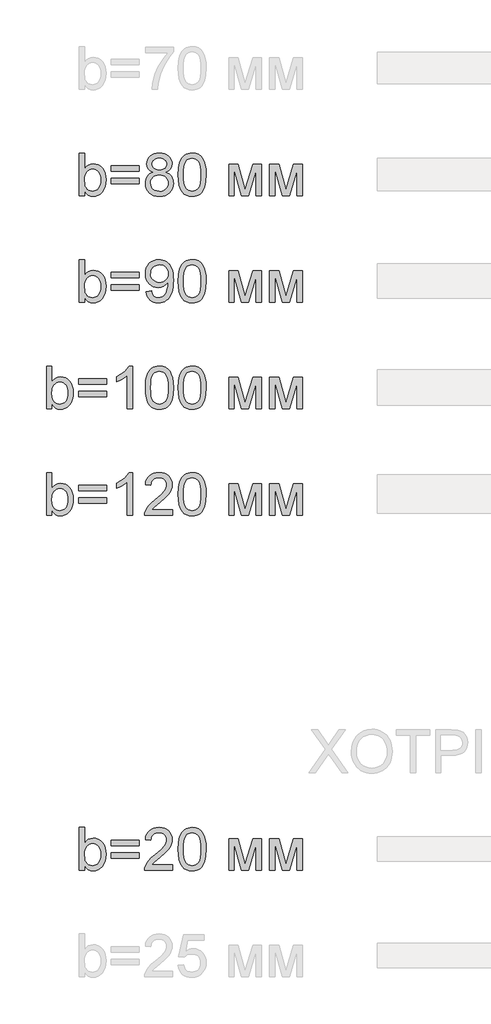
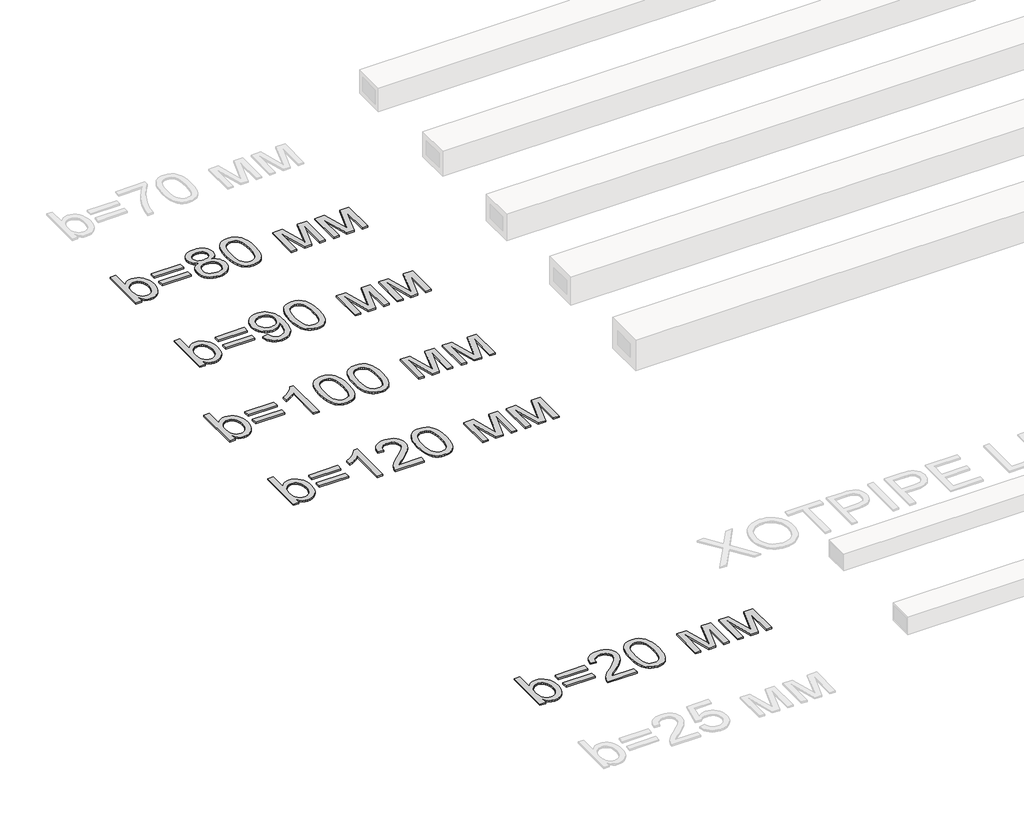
# One storey, part 82 of 86: 5 proxies.
"""IFC4 building model written with IfcOpenShell, lengths in millimetres."""

from ifc_helpers import new_model, si_unit, origin, origin_with_axes, place, context, project, spatial, polyline, outline, extrude, element, save

model = new_model("IFC4")

# Units and contexts
model_context = context("Model", 3, world=origin())
ifc_project = project(units=[si_unit("LENGTHUNIT", "METRE", prefix="MILLI")], contexts=[model_context])

# Site, building, storey
site = spatial("IfcSite", under=ifc_project)
building = spatial("IfcBuilding", under=site)
storey = spatial("IfcBuildingStorey", under=building, Name="Уровень 1", Elevation=0.0)

# Proxies
placement = place(None, origin())
element("IfcBuildingElementProxy", 1, Name="Текст модели 1", ObjectType="Текст модели 1", at=placement, inside=storey, context=model_context, shape_type="SweptSolid", body=[
    extrude(outline(polyline([(109771.0068445, 78669.2937088), (109695.6646119, 78669.2937088), (109695.6646119, 79272.0315697), (109771.0068445, 79272.0315697), (109771.0068445, 79048.5064694), (109795.7836969, 79080.3742473), (109823.7611226, 79103.1369457), (109854.9391217, 79116.7945648), (109889.3176942, 79121.3471045), (109928.1292447, 79117.2452202), (109964.8070796, 79104.9395675), (109997.2542716, 79085.2026984), (110023.3738932, 79058.8071653), (110043.8465263, 79026.0104854), (110059.3527524, 78987.0701762), (110069.1200193, 78943.6049185), (110072.375775, 78897.233393), (110069.0050562, 78843.7249568), (110058.8928999, 78796.6544555), (110042.039306, 78756.0218892), (110018.4442745, 78721.8272577), (109990.1219594, 78694.7235517), (109959.0865146, 78675.3637617), (109925.33794, 78663.7478877), (109888.8762358, 78659.8759297), (109853.3664262, 78664.8699278), (109821.8849245, 78679.8519221), (109794.4317306, 78704.8219125), (109771.0068445, 78739.7798991), (109771.0068445, 78669.2937088)]), holes=[polyline([(109771.0068445, 78893.7017259), (109776.1571925, 78830.8674811), (109782.5951274, 78807.065516), (109791.6082363, 78788.3403224), (109809.8643803, 78765.0993774), (109831.0819744, 78748.4987024), (109855.2610185, 78738.5382973), (109882.4015127, 78735.2181623), (109904.9342849, 78737.6645776), (109925.8851645, 78745.0038234), (109945.2541516, 78757.2358997), (109963.041246, 78774.3608066), (109977.9128757, 78796.3325588), (109988.5354683, 78823.105171), (109994.9090239, 78854.6786432), (109997.0335424, 78891.0529755), (109994.9963958, 78928.1170865), (109988.8849562, 78959.9940614), (109978.6992234, 78986.6839001), (109964.4391976, 79008.1866028), (109947.2912981, 79024.7320955), (109928.4419444, 79036.5503046), (109907.8911364, 79043.64123), (109885.6388742, 79046.0048719), (109863.106102, 79043.5584566), (109842.1552224, 79036.2192108), (109822.7862354, 79023.9871344), (109804.9991409, 79006.8622276), (109790.1275112, 78985.1112046), (109779.5049186, 78959.00078), (109773.1313631, 78928.5309538), (109771.0068445, 78893.7017259)])]), origin_with_axes(), (0.0, 0.0, 1.0), 20.0),
    extrude(outline(polyline([(110543.2647288, 79017.7515346), (110147.7180076, 79017.7515346), (110147.7180076, 79093.0937672), (110543.2647288, 79093.0937672), (110543.2647288, 79017.7515346)])), origin_with_axes(), (0.0, 0.0, 1.0), 20.0),
    extrude(outline(polyline([(110543.2647288, 78838.8137322), (110147.7180076, 78838.8137322), (110147.7180076, 78914.1559648), (110543.2647288, 78914.1559648), (110543.2647288, 78838.8137322)])), origin_with_axes(), (0.0, 0.0, 1.0), 20.0),
    extrude(outline(polyline([(110737.8007279, 79001.2704212), (110697.4624671, 79021.136049), (110681.8044897, 79033.7176132), (110669.1539476, 79048.065011), (110652.4337109, 79081.5054844), (110646.8602987, 79120.9056461), (110649.8953251, 79151.6329897), (110659.0004045, 79179.8035535), (110674.1755368, 79205.4173374), (110695.420722, 79228.4743415), (110721.7150876, 79247.5306288), (110752.0377611, 79261.1422626), (110786.3887424, 79269.3092429), (110824.7680315, 79272.0315697), (110863.3312617, 79269.2448636), (110897.9397604, 79260.8847452), (110928.5935276, 79246.9512147), (110955.2925634, 79227.4442719), (110976.9240247, 79203.9366124), (110992.3750685, 79178.0009317), (111001.6456948, 79149.6372299), (111004.7359036, 79118.8455069), (110999.2360677, 79080.7145381), (110982.7365603, 79047.8442818), (110970.3159444, 79033.593453), (110955.0534401, 79021.0808667), (110916.0027663, 79001.2704212), (110940.7658231, 78990.7352006), (110962.3742918, 78977.3764857), (110980.8281724, 78961.1942764), (110996.1274649, 78942.1885728), (111008.1342135, 78920.7824392), (111016.7104625, 78897.3989399), (111021.8562119, 78872.0380749), (111023.5714617, 78844.6998441), (111020.1685533, 78807.1206983), (111009.9598279, 78772.6685494), (110992.9452856, 78741.3433976), (110969.1249264, 78713.1452426), (110939.7495491, 78689.8399182), (110906.0699525, 78673.1932579), (110868.0861365, 78663.2052618), (110825.7981011, 78659.8759297), (110783.5100658, 78663.2190574), (110745.5262498, 78673.2484402), (110711.8466531, 78689.9640784), (110682.4712758, 78713.3659718), (110658.6509166, 78741.7618633), (110641.6363743, 78773.4594957), (110631.427649, 78808.458869), (110628.0247405, 78846.7599833), (110629.8089682, 78875.3444143), (110635.1616512, 78901.5008242), (110644.0827896, 78925.2292128), (110656.5723833, 78946.5295804), (110672.3545209, 78965.0156506), (110691.1532909, 78980.3011475), (110712.9686932, 78992.3860711), (110737.8007279, 79001.2704212)]), holes=[polyline([(110722.2025313, 79118.6983541), (110723.8717958, 79101.4262944), (110728.8795895, 79085.8097037), (110737.2259122, 79071.848582), (110748.9107641, 79059.5429293), (110763.7869923, 79049.4997508), (110781.707444, 79042.3260519), (110802.6721192, 79038.0218326), (110826.6810179, 79036.5870928), (110850.0967069, 79038.0126355), (110870.6061281, 79042.2892637), (110888.2092816, 79049.4169774), (110902.9061673, 79059.3957765), (110914.4944501, 79071.4439118), (110922.771795, 79084.7796342), (110927.738202, 79099.4029435), (110929.393671, 79115.3138398), (110927.6830197, 79131.8455369), (110922.5510658, 79147.0068736), (110913.9978095, 79160.7978499), (110902.0232505, 79173.2184658), (110886.995271, 79183.486972), (110869.2817529, 79190.8216193), (110848.8826963, 79195.2224076), (110825.7981011, 79196.6893371), (110802.5341634, 79195.2545973), (110782.0385378, 79190.950378), (110764.3112241, 79183.7766791), (110749.3522225, 79173.7335006), (110737.4742326, 79161.6853652), (110728.9899541, 79148.4967957), (110723.899387, 79134.167792), (110722.2025313, 79118.6983541)]), polyline([(110703.3669731, 78849.4087336), (110706.5123642, 78820.5851793), (110715.9485374, 78792.68133), (110733.3677498, 78768.345936), (110760.4622588, 78750.2277477), (110792.9094507, 78738.9705587), (110826.3867123, 78735.2181623), (110853.628374, 78737.1909295), (110877.6694624, 78743.1092311), (110898.5099775, 78752.9730671), (110916.1499191, 78766.7824375), (110930.1846172, 78783.6360314), (110940.2094016, 78802.632538), (110946.2242722, 78823.7719571), (110948.2292291, 78847.0542889), (110946.1598929, 78870.7091012), (110939.9518842, 78892.2301979), (110929.6052031, 78911.617579), (110915.1198495, 78928.8712446), (110897.0016613, 78943.0347014), (110875.7564761, 78953.1514563), (110851.3842939, 78959.2215092), (110823.8851147, 78961.2448602), (110797.0435247, 78959.2491003), (110773.3197345, 78953.2618209), (110752.7137442, 78943.2830218), (110735.2255539, 78929.312703), (110721.2874248, 78912.344146), (110711.3316183, 78893.3706321), (110705.3581344, 78872.3921613), (110703.3669731, 78849.4087336)])]), origin_with_axes(), (0.0, 0.0, 1.0), 20.0),
    extrude(outline(polyline([(111089.4959153, 78965.8065969), (111095.0325393, 79062.2836501), (111101.9533193, 79103.1967265), (111111.6424114, 79139.2261694), (111124.0584287, 79170.6662845), (111139.1599846, 79197.8113772), (111156.9470791, 79220.6614476), (111177.4197121, 79239.2164957), (111200.6468616, 79253.5730906), (111226.6975054, 79263.8278012), (111255.5716435, 79269.9806276), (111287.2692759, 79272.0315697), (111333.6959837, 79267.1755274), (111375.2666491, 79252.6074004), (111410.0314977, 79228.8974058), (111436.0407547, 79196.6157607), (111455.6856533, 79156.0383766), (111471.3574262, 79107.4411651), (111481.6213339, 79045.7289604), (111485.0426365, 78965.8065969), (111479.5611947, 78869.8813667), (111472.7093926, 78829.106246), (111463.1168696, 78793.1227884), (111450.7974212, 78761.6688778), (111435.7648432, 78734.4823983), (111418.0191355, 78711.56335), (111397.560298, 78692.9117329), (111374.3055574, 78678.458569), (111348.1721402, 78668.1348805), (111319.1600463, 78661.9406674), (111287.2692759, 78659.8759297), (111245.7721868, 78663.4627792), (111208.9839873, 78674.2233275), (111176.9046773, 78692.1575748), (111149.5342569, 78717.265521), (111123.2674824, 78762.6529621), (111104.5055007, 78819.2056218), (111093.2483116, 78886.9235001), (111089.4959153, 78965.8065969)]), holes=[polyline([(111164.8381479, 78965.9537497), (111167.0454398, 78900.456959), (111173.6673158, 78847.440565), (111184.7037756, 78806.9045676), (111200.1548194, 78778.848967), (111218.8432248, 78759.7604899), (111239.5917693, 78746.1258635), (111262.400453, 78737.9450876), (111287.2692759, 78735.2181623), (111312.1380987, 78737.9542847), (111334.9467824, 78746.1626517), (111355.695327, 78759.8432634), (111374.3837323, 78778.9961198), (111389.8347761, 78807.0977057), (111400.871236, 78847.624506), (111407.4931119, 78900.5765206), (111409.7004039, 78965.9537497), (111407.5666883, 79029.7168965), (111401.1655416, 79081.79979), (111390.4969637, 79122.2024301), (111375.5609547, 79150.9248169), (111357.185249, 79170.9467945), (111336.1975812, 79185.248207), (111312.5979512, 79193.8290546), (111286.3863591, 79196.6893371), (111261.6462949, 79194.1693454), (111239.2238873, 79186.6093704), (111219.1191363, 79174.0094121), (111201.3320418, 79156.3694704), (111185.3659632, 79125.0995008), (111173.9616213, 79082.9402242), (111167.1190162, 79029.8916405), (111164.8381479, 78965.9537497)])]), origin_with_axes(), (0.0, 0.0, 1.0), 20.0),
    extrude(outline(polyline([(111805.2471251, 79111.9293254), (111934.8887402, 79111.9293254), (112034.8054901, 78757.5853876), (112142.5213382, 79111.9293254), (112266.7182998, 79111.9293254), (112266.7182998, 78669.2937088), (112191.3760672, 78669.2937088), (112191.3760672, 79025.6977857), (112083.0716078, 78669.2937088), (111984.1849275, 78669.2937088), (111880.5893577, 79042.7675103), (111880.5893577, 78669.2937088), (111805.2471251, 78669.2937088), (111805.2471251, 79111.9293254)])), origin_with_axes(), (0.0, 0.0, 1.0), 20.0),
    extrude(outline(polyline([(112379.7316487, 79111.9293254), (112509.3732638, 79111.9293254), (112609.2900137, 78757.5853876), (112717.0058619, 79111.9293254), (112841.2028235, 79111.9293254), (112841.2028235, 78669.2937088), (112765.8605909, 78669.2937088), (112765.8605909, 79025.6977857), (112657.5561315, 78669.2937088), (112558.6694512, 78669.2937088), (112455.0738813, 79042.7675103), (112455.0738813, 78669.2937088), (112379.7316487, 78669.2937088), (112379.7316487, 79111.9293254)])), origin_with_axes(), (0.0, 0.0, 1.0), 20.0),
])
element("IfcBuildingElementProxy", 2, Name="Текст модели 1", ObjectType="Текст модели 1", at=placement, inside=storey, context=model_context, shape_type="SweptSolid", body=[
    extrude(outline(polyline([(109771.0068445, 77169.2937088), (109695.6646119, 77169.2937088), (109695.6646119, 77772.0315697), (109771.0068445, 77772.0315697), (109771.0068445, 77548.5064694), (109795.7836969, 77580.3742473), (109823.7611226, 77603.1369457), (109854.9391217, 77616.7945648), (109889.3176942, 77621.3471045), (109928.1292447, 77617.2452202), (109964.8070796, 77604.9395675), (109997.2542716, 77585.2026984), (110023.3738932, 77558.8071653), (110043.8465263, 77526.0104854), (110059.3527524, 77487.0701762), (110069.1200193, 77443.6049185), (110072.375775, 77397.233393), (110069.0050562, 77343.7249568), (110058.8928999, 77296.6544555), (110042.039306, 77256.0218892), (110018.4442745, 77221.8272577), (109990.1219594, 77194.7235517), (109959.0865146, 77175.3637617), (109925.33794, 77163.7478877), (109888.8762358, 77159.8759297), (109853.3664262, 77164.8699278), (109821.8849245, 77179.8519221), (109794.4317306, 77204.8219125), (109771.0068445, 77239.7798991), (109771.0068445, 77169.2937088)]), holes=[polyline([(109771.0068445, 77393.7017259), (109776.1571925, 77330.8674811), (109782.5951274, 77307.065516), (109791.6082363, 77288.3403224), (109809.8643803, 77265.0993774), (109831.0819744, 77248.4987024), (109855.2610185, 77238.5382973), (109882.4015127, 77235.2181623), (109904.9342849, 77237.6645776), (109925.8851645, 77245.0038234), (109945.2541516, 77257.2358997), (109963.041246, 77274.3608066), (109977.9128757, 77296.3325588), (109988.5354683, 77323.105171), (109994.9090239, 77354.6786432), (109997.0335424, 77391.0529755), (109994.9963958, 77428.1170865), (109988.8849562, 77459.9940614), (109978.6992234, 77486.6839001), (109964.4391976, 77508.1866028), (109947.2912981, 77524.7320955), (109928.4419444, 77536.5503046), (109907.8911364, 77543.64123), (109885.6388742, 77546.0048719), (109863.106102, 77543.5584566), (109842.1552224, 77536.2192108), (109822.7862354, 77523.9871344), (109804.9991409, 77506.8622276), (109790.1275112, 77485.1112046), (109779.5049186, 77459.00078), (109773.1313631, 77428.5309538), (109771.0068445, 77393.7017259)])]), origin_with_axes(), (0.0, 0.0, 1.0), 20.0),
    extrude(outline(polyline([(110543.2647288, 77517.7515346), (110147.7180076, 77517.7515346), (110147.7180076, 77593.0937672), (110543.2647288, 77593.0937672), (110543.2647288, 77517.7515346)])), origin_with_axes(), (0.0, 0.0, 1.0), 20.0),
    extrude(outline(polyline([(110543.2647288, 77338.8137322), (110147.7180076, 77338.8137322), (110147.7180076, 77414.1559648), (110543.2647288, 77414.1559648), (110543.2647288, 77338.8137322)])), origin_with_axes(), (0.0, 0.0, 1.0), 20.0),
    extrude(outline(polyline([(110637.4425196, 77319.978174), (110712.7847522, 77329.3959531), (110725.660622, 77286.6296712), (110735.1335834, 77270.3646884), (110746.6298957, 77257.5118112), (110760.0208004, 77247.7583398), (110775.1775386, 77240.7915746), (110810.7885157, 77235.2181623), (110842.739067, 77238.8050118), (110871.7833505, 77249.5655601), (110895.9164094, 77266.322585), (110913.1332868, 77287.898864), (110926.1747035, 77316.2625659), (110937.7813804, 77353.3818592), (110945.9483607, 77395.9825942), (110948.6706875, 77440.7906212), (110948.2292291, 77455.505901), (110922.1280015, 77423.6473203), (110887.9701583, 77398.4106154), (110848.2205087, 77381.9662902), (110805.3438622, 77376.4848485), (110769.5535426, 77379.8325746), (110736.6418996, 77389.8757531), (110706.6089332, 77406.6143839), (110679.4546434, 77430.048467), (110656.9540609, 77458.9547948), (110640.8822162, 77492.1101596), (110631.2391094, 77529.5145614), (110628.0247405, 77571.1680003), (110631.3954593, 77614.2101938), (110641.5076156, 77652.8378033), (110658.3612095, 77687.0508288), (110681.956241, 77716.8492704), (110710.628044, 77740.9915264), (110742.7119525, 77758.2359949), (110778.2079665, 77768.582676), (110817.116086, 77772.0315697), (110845.8430713, 77770.063401), (110873.3100608, 77764.158895), (110899.5170544, 77754.3180516), (110924.4640522, 77740.5408709), (110947.3187212, 77723.1216584), (110967.2487283, 77702.3547198), (110984.2540735, 77678.240055), (110998.3347568, 77650.7776641), (111009.3758152, 77618.3856544), (111017.2622855, 77579.4821334), (111021.9941677, 77534.0671011), (111023.5714617, 77482.1405575), (111021.9987662, 77427.6066502), (111017.2806796, 77378.9312638), (111009.417202, 77336.114398), (110998.4083332, 77299.1560531), (110984.2954602, 77267.154918), (110967.1199696, 77239.209682), (110946.8818613, 77215.3203449), (110923.5811354, 77195.4869069), (110897.6868415, 77179.9071044), (110869.668029, 77168.778674), (110839.5246981, 77162.1016158), (110807.2568486, 77159.8759297), (110773.420902, 77162.5016875), (110742.8407112, 77170.3789607), (110715.516276, 77183.5077494), (110691.4475965, 77201.8880536), (110671.2416779, 77225.0232325), (110655.5055255, 77252.4166456), (110644.2391394, 77284.0682928), (110637.4425196, 77319.978174)]), holes=[polyline([(110948.2292291, 77572.9338339), (110946.1966811, 77599.9363724), (110940.099037, 77623.9958548), (110929.9362969, 77645.1122814), (110915.7084607, 77663.2856519), (110898.1145043, 77677.8997642), (110877.8534034, 77688.3384158), (110854.9251581, 77694.6016068), (110829.3297683, 77696.6893371), (110802.915841, 77694.4406584), (110779.0035113, 77687.6946223), (110757.5927792, 77676.4512288), (110738.6836447, 77660.710478), (110723.2326009, 77641.3920747), (110712.196141, 77619.415724), (110705.5742651, 77594.7814259), (110703.3669731, 77567.4891804), (110705.4547034, 77543.0112321), (110711.7178944, 77520.9337139), (110722.156546, 77501.2566257), (110736.7706583, 77483.9799675), (110754.9532259, 77469.9130797), (110776.0972436, 77459.8653027), (110800.2027113, 77453.8366365), (110827.2696291, 77451.8270811), (110852.5109325, 77453.8366365), (110875.4069882, 77459.8653027), (110895.9577961, 77469.9130797), (110914.1633564, 77483.9799675), (110929.0671757, 77501.5969165), (110939.7127609, 77522.2948773), (110946.1001121, 77546.0738497), (110948.2292291, 77572.9338339)])]), origin_with_axes(), (0.0, 0.0, 1.0), 20.0),
    extrude(outline(polyline([(111089.4959153, 77465.8065969), (111095.0325393, 77562.2836501), (111101.9533193, 77603.1967265), (111111.6424114, 77639.2261694), (111124.0584287, 77670.6662845), (111139.1599846, 77697.8113772), (111156.9470791, 77720.6614476), (111177.4197121, 77739.2164957), (111200.6468616, 77753.5730906), (111226.6975054, 77763.8278012), (111255.5716435, 77769.9806276), (111287.2692759, 77772.0315697), (111333.6959837, 77767.1755274), (111375.2666491, 77752.6074004), (111410.0314977, 77728.8974058), (111436.0407547, 77696.6157607), (111455.6856533, 77656.0383766), (111471.3574262, 77607.4411651), (111481.6213339, 77545.7289604), (111485.0426365, 77465.8065969), (111479.5611947, 77369.8813667), (111472.7093926, 77329.106246), (111463.1168696, 77293.1227884), (111450.7974212, 77261.6688778), (111435.7648432, 77234.4823983), (111418.0191355, 77211.56335), (111397.560298, 77192.9117329), (111374.3055574, 77178.458569), (111348.1721402, 77168.1348805), (111319.1600463, 77161.9406674), (111287.2692759, 77159.8759297), (111245.7721868, 77163.4627792), (111208.9839873, 77174.2233275), (111176.9046773, 77192.1575748), (111149.5342569, 77217.265521), (111123.2674824, 77262.6529621), (111104.5055007, 77319.2056218), (111093.2483116, 77386.9235001), (111089.4959153, 77465.8065969)]), holes=[polyline([(111164.8381479, 77465.9537497), (111167.0454398, 77400.456959), (111173.6673158, 77347.440565), (111184.7037756, 77306.9045676), (111200.1548194, 77278.848967), (111218.8432248, 77259.7604899), (111239.5917693, 77246.1258635), (111262.400453, 77237.9450876), (111287.2692759, 77235.2181623), (111312.1380987, 77237.9542847), (111334.9467824, 77246.1626517), (111355.695327, 77259.8432634), (111374.3837323, 77278.9961198), (111389.8347761, 77307.0977057), (111400.871236, 77347.624506), (111407.4931119, 77400.5765206), (111409.7004039, 77465.9537497), (111407.5666883, 77529.7168965), (111401.1655416, 77581.79979), (111390.4969637, 77622.2024301), (111375.5609547, 77650.9248169), (111357.185249, 77670.9467945), (111336.1975812, 77685.248207), (111312.5979512, 77693.8290546), (111286.3863591, 77696.6893371), (111261.6462949, 77694.1693454), (111239.2238873, 77686.6093704), (111219.1191363, 77674.0094121), (111201.3320418, 77656.3694704), (111185.3659632, 77625.0995008), (111173.9616213, 77582.9402242), (111167.1190162, 77529.8916405), (111164.8381479, 77465.9537497)])]), origin_with_axes(), (0.0, 0.0, 1.0), 20.0),
    extrude(outline(polyline([(111805.2471251, 77611.9293254), (111934.8887402, 77611.9293254), (112034.8054901, 77257.5853876), (112142.5213382, 77611.9293254), (112266.7182998, 77611.9293254), (112266.7182998, 77169.2937088), (112191.3760672, 77169.2937088), (112191.3760672, 77525.6977857), (112083.0716078, 77169.2937088), (111984.1849275, 77169.2937088), (111880.5893577, 77542.7675103), (111880.5893577, 77169.2937088), (111805.2471251, 77169.2937088), (111805.2471251, 77611.9293254)])), origin_with_axes(), (0.0, 0.0, 1.0), 20.0),
    extrude(outline(polyline([(112379.7316487, 77611.9293254), (112509.3732638, 77611.9293254), (112609.2900137, 77257.5853876), (112717.0058619, 77611.9293254), (112841.2028235, 77611.9293254), (112841.2028235, 77169.2937088), (112765.8605909, 77169.2937088), (112765.8605909, 77525.6977857), (112657.5561315, 77169.2937088), (112558.6694512, 77169.2937088), (112455.0738813, 77542.7675103), (112455.0738813, 77169.2937088), (112379.7316487, 77169.2937088), (112379.7316487, 77611.9293254)])), origin_with_axes(), (0.0, 0.0, 1.0), 20.0),
])
element("IfcBuildingElementProxy", 3, Name="Текст модели 1", ObjectType="Текст модели 1", at=placement, inside=storey, context=model_context, shape_type="SweptSolid", body=[
    extrude(outline(polyline([(109309.5356698, 75669.2937088), (109234.1934372, 75669.2937088), (109234.1934372, 76272.0315697), (109309.5356698, 76272.0315697), (109309.5356698, 76048.5064694), (109334.3125222, 76080.3742473), (109362.2899479, 76103.1369457), (109393.467947, 76116.7945648), (109427.8465194, 76121.3471045), (109466.6580699, 76117.2452202), (109503.3359048, 76104.9395675), (109535.7830968, 76085.2026984), (109561.9027185, 76058.8071653), (109582.3753515, 76026.0104854), (109597.8815776, 75987.0701762), (109607.6488446, 75943.6049185), (109610.9046002, 75897.233393), (109607.5338815, 75843.7249568), (109597.4217251, 75796.6544555), (109580.5681312, 75756.0218892), (109556.9730997, 75721.8272577), (109528.6507846, 75694.7235517), (109497.6153398, 75675.3637617), (109463.8667653, 75663.7478877), (109427.405061, 75659.8759297), (109391.8952515, 75664.8699278), (109360.4137497, 75679.8519221), (109332.9605558, 75704.8219125), (109309.5356698, 75739.7798991), (109309.5356698, 75669.2937088)]), holes=[polyline([(109309.5356698, 75893.7017259), (109314.6860177, 75830.8674811), (109321.1239526, 75807.065516), (109330.1370615, 75788.3403224), (109348.3932055, 75765.0993774), (109369.6107996, 75748.4987024), (109393.7898437, 75738.5382973), (109420.9303379, 75735.2181623), (109443.4631101, 75737.6645776), (109464.4139898, 75745.0038234), (109483.7829768, 75757.2358997), (109501.5700713, 75774.3608066), (109516.4417009, 75796.3325588), (109527.0642935, 75823.105171), (109533.4378491, 75854.6786432), (109535.5623676, 75891.0529755), (109533.5252211, 75928.1170865), (109527.4137814, 75959.9940614), (109517.2280487, 75986.6839001), (109502.9680229, 76008.1866028), (109485.8201234, 76024.7320955), (109466.9707696, 76036.5503046), (109446.4199617, 76043.64123), (109424.1676995, 76046.0048719), (109401.6349273, 76043.5584566), (109380.6840477, 76036.2192108), (109361.3150606, 76023.9871344), (109343.5279661, 76006.8622276), (109328.6563365, 75985.1112046), (109318.0337439, 75959.00078), (109311.6601883, 75928.5309538), (109309.5356698, 75893.7017259)])]), origin_with_axes(), (0.0, 0.0, 1.0), 20.0),
    extrude(outline(polyline([(110081.7935541, 76017.7515346), (109686.2468329, 76017.7515346), (109686.2468329, 76093.0937672), (110081.7935541, 76093.0937672), (110081.7935541, 76017.7515346)])), origin_with_axes(), (0.0, 0.0, 1.0), 20.0),
    extrude(outline(polyline([(110081.7935541, 75838.8137322), (109686.2468329, 75838.8137322), (109686.2468329, 75914.1559648), (110081.7935541, 75914.1559648), (110081.7935541, 75838.8137322)])), origin_with_axes(), (0.0, 0.0, 1.0), 20.0),
    extrude(outline(polyline([(110449.086938, 75669.2937088), (110373.7447054, 75669.2937088), (110373.7447054, 76139.0054402), (110342.2907949, 76113.5664003), (110302.3755984, 76088.1641485), (110260.4738391, 76065.9624701), (110223.0602402, 76050.1251502), (110223.0602402, 76121.3471045), (110282.2340591, 76153.5367791), (110333.4984152, 76191.8332947), (110373.9102523, 76232.5578316), (110400.5265147, 76272.0315697), (110449.086938, 76272.0315697), (110449.086938, 75669.2937088)])), origin_with_axes(), (0.0, 0.0, 1.0), 20.0),
    extrude(outline(polyline([(110628.0247405, 75965.8065969), (110633.5613645, 76062.2836501), (110640.4821446, 76103.1967265), (110650.1712366, 76139.2261694), (110662.587254, 76170.6662845), (110677.6888099, 76197.8113772), (110695.4759043, 76220.6614476), (110715.9485374, 76239.2164957), (110739.1756868, 76253.5730906), (110765.2263306, 76263.8278012), (110794.1004687, 76269.9806276), (110825.7981011, 76272.0315697), (110872.2248089, 76267.1755274), (110913.7954744, 76252.6074004), (110948.5603229, 76228.8974058), (110974.56958, 76196.6157607), (110994.2144785, 76156.0383766), (111009.8862515, 76107.4411651), (111020.1501592, 76045.7289604), (111023.5714617, 75965.8065969), (111018.09002, 75869.8813667), (111011.2382178, 75829.106246), (111001.6456948, 75793.1227884), (110989.3262465, 75761.6688778), (110974.2936685, 75734.4823983), (110956.5479607, 75711.56335), (110936.0891233, 75692.9117329), (110912.8343826, 75678.458569), (110886.7009654, 75668.1348805), (110857.6888716, 75661.9406674), (110825.7981011, 75659.8759297), (110784.3010121, 75663.4627792), (110747.5128125, 75674.2233275), (110715.4335026, 75692.1575748), (110688.0630821, 75717.265521), (110661.7963077, 75762.6529621), (110643.0343259, 75819.2056218), (110631.7771369, 75886.9235001), (110628.0247405, 75965.8065969)]), holes=[polyline([(110703.3669731, 75965.9537497), (110705.5742651, 75900.456959), (110712.196141, 75847.440565), (110723.2326009, 75806.9045676), (110738.6836447, 75778.848967), (110757.37205, 75759.7604899), (110778.1205945, 75746.1258635), (110800.9292782, 75737.9450876), (110825.7981011, 75735.2181623), (110850.666924, 75737.9542847), (110873.4756077, 75746.1626517), (110894.2241522, 75759.8432634), (110912.9125576, 75778.9961198), (110928.3636014, 75807.0977057), (110939.4000612, 75847.624506), (110946.0219371, 75900.5765206), (110948.2292291, 75965.9537497), (110946.0955135, 76029.7168965), (110939.6943668, 76081.79979), (110929.025789, 76122.2024301), (110914.08978, 76150.9248169), (110895.7140743, 76170.9467945), (110874.7264065, 76185.248207), (110851.1267765, 76193.8290546), (110824.9151843, 76196.6893371), (110800.1751201, 76194.1693454), (110777.7527125, 76186.6093704), (110757.6479615, 76174.0094121), (110739.860867, 76156.3694704), (110723.8947884, 76125.0995008), (110712.4904466, 76082.9402242), (110705.6478415, 76029.8916405), (110703.3669731, 75965.9537497)])]), origin_with_axes(), (0.0, 0.0, 1.0), 20.0),
    extrude(outline(polyline([(111089.4959153, 75965.8065969), (111095.0325393, 76062.2836501), (111101.9533193, 76103.1967265), (111111.6424114, 76139.2261694), (111124.0584287, 76170.6662845), (111139.1599846, 76197.8113772), (111156.9470791, 76220.6614476), (111177.4197121, 76239.2164957), (111200.6468616, 76253.5730906), (111226.6975054, 76263.8278012), (111255.5716435, 76269.9806276), (111287.2692759, 76272.0315697), (111333.6959837, 76267.1755274), (111375.2666491, 76252.6074004), (111410.0314977, 76228.8974058), (111436.0407547, 76196.6157607), (111455.6856533, 76156.0383766), (111471.3574262, 76107.4411651), (111481.6213339, 76045.7289604), (111485.0426365, 75965.8065969), (111479.5611947, 75869.8813667), (111472.7093926, 75829.106246), (111463.1168696, 75793.1227884), (111450.7974212, 75761.6688778), (111435.7648432, 75734.4823983), (111418.0191355, 75711.56335), (111397.560298, 75692.9117329), (111374.3055574, 75678.458569), (111348.1721402, 75668.1348805), (111319.1600463, 75661.9406674), (111287.2692759, 75659.8759297), (111245.7721868, 75663.4627792), (111208.9839873, 75674.2233275), (111176.9046773, 75692.1575748), (111149.5342569, 75717.265521), (111123.2674824, 75762.6529621), (111104.5055007, 75819.2056218), (111093.2483116, 75886.9235001), (111089.4959153, 75965.8065969)]), holes=[polyline([(111164.8381479, 75965.9537497), (111167.0454398, 75900.456959), (111173.6673158, 75847.440565), (111184.7037756, 75806.9045676), (111200.1548194, 75778.848967), (111218.8432248, 75759.7604899), (111239.5917693, 75746.1258635), (111262.400453, 75737.9450876), (111287.2692759, 75735.2181623), (111312.1380987, 75737.9542847), (111334.9467824, 75746.1626517), (111355.695327, 75759.8432634), (111374.3837323, 75778.9961198), (111389.8347761, 75807.0977057), (111400.871236, 75847.624506), (111407.4931119, 75900.5765206), (111409.7004039, 75965.9537497), (111407.5666883, 76029.7168965), (111401.1655416, 76081.79979), (111390.4969637, 76122.2024301), (111375.5609547, 76150.9248169), (111357.185249, 76170.9467945), (111336.1975812, 76185.248207), (111312.5979512, 76193.8290546), (111286.3863591, 76196.6893371), (111261.6462949, 76194.1693454), (111239.2238873, 76186.6093704), (111219.1191363, 76174.0094121), (111201.3320418, 76156.3694704), (111185.3659632, 76125.0995008), (111173.9616213, 76082.9402242), (111167.1190162, 76029.8916405), (111164.8381479, 75965.9537497)])]), origin_with_axes(), (0.0, 0.0, 1.0), 20.0),
    extrude(outline(polyline([(111805.2471251, 76111.9293254), (111934.8887402, 76111.9293254), (112034.8054901, 75757.5853876), (112142.5213382, 76111.9293254), (112266.7182998, 76111.9293254), (112266.7182998, 75669.2937088), (112191.3760672, 75669.2937088), (112191.3760672, 76025.6977857), (112083.0716078, 75669.2937088), (111984.1849275, 75669.2937088), (111880.5893577, 76042.7675103), (111880.5893577, 75669.2937088), (111805.2471251, 75669.2937088), (111805.2471251, 76111.9293254)])), origin_with_axes(), (0.0, 0.0, 1.0), 20.0),
    extrude(outline(polyline([(112379.7316487, 76111.9293254), (112509.3732638, 76111.9293254), (112609.2900137, 75757.5853876), (112717.0058619, 76111.9293254), (112841.2028235, 76111.9293254), (112841.2028235, 75669.2937088), (112765.8605909, 75669.2937088), (112765.8605909, 76025.6977857), (112657.5561315, 75669.2937088), (112558.6694512, 75669.2937088), (112455.0738813, 76042.7675103), (112455.0738813, 75669.2937088), (112379.7316487, 75669.2937088), (112379.7316487, 76111.9293254)])), origin_with_axes(), (0.0, 0.0, 1.0), 20.0),
])
element("IfcBuildingElementProxy", 4, Name="Текст модели 1", ObjectType="Текст модели 1", at=placement, inside=storey, context=model_context, shape_type="SweptSolid", body=[
    extrude(outline(polyline([(109309.5356698, 74169.2937088), (109234.1934372, 74169.2937088), (109234.1934372, 74772.0315697), (109309.5356698, 74772.0315697), (109309.5356698, 74548.5064694), (109334.3125222, 74580.3742473), (109362.2899479, 74603.1369457), (109393.467947, 74616.7945648), (109427.8465194, 74621.3471045), (109466.6580699, 74617.2452202), (109503.3359048, 74604.9395675), (109535.7830968, 74585.2026984), (109561.9027185, 74558.8071653), (109582.3753515, 74526.0104854), (109597.8815776, 74487.0701762), (109607.6488446, 74443.6049185), (109610.9046002, 74397.233393), (109607.5338815, 74343.7249568), (109597.4217251, 74296.6544555), (109580.5681312, 74256.0218892), (109556.9730997, 74221.8272577), (109528.6507846, 74194.7235517), (109497.6153398, 74175.3637617), (109463.8667653, 74163.7478877), (109427.405061, 74159.8759297), (109391.8952515, 74164.8699278), (109360.4137497, 74179.8519221), (109332.9605558, 74204.8219125), (109309.5356698, 74239.7798991), (109309.5356698, 74169.2937088)]), holes=[polyline([(109309.5356698, 74393.7017259), (109314.6860177, 74330.8674811), (109321.1239526, 74307.065516), (109330.1370615, 74288.3403224), (109348.3932055, 74265.0993774), (109369.6107996, 74248.4987024), (109393.7898437, 74238.5382973), (109420.9303379, 74235.2181623), (109443.4631101, 74237.6645776), (109464.4139898, 74245.0038234), (109483.7829768, 74257.2358997), (109501.5700713, 74274.3608066), (109516.4417009, 74296.3325588), (109527.0642935, 74323.105171), (109533.4378491, 74354.6786432), (109535.5623676, 74391.0529755), (109533.5252211, 74428.1170865), (109527.4137814, 74459.9940614), (109517.2280487, 74486.6839001), (109502.9680229, 74508.1866028), (109485.8201234, 74524.7320955), (109466.9707696, 74536.5503046), (109446.4199617, 74543.64123), (109424.1676995, 74546.0048719), (109401.6349273, 74543.5584566), (109380.6840477, 74536.2192108), (109361.3150606, 74523.9871344), (109343.5279661, 74506.8622276), (109328.6563365, 74485.1112046), (109318.0337439, 74459.00078), (109311.6601883, 74428.5309538), (109309.5356698, 74393.7017259)])]), origin_with_axes(), (0.0, 0.0, 1.0), 20.0),
    extrude(outline(polyline([(110081.7935541, 74517.7515346), (109686.2468329, 74517.7515346), (109686.2468329, 74593.0937672), (110081.7935541, 74593.0937672), (110081.7935541, 74517.7515346)])), origin_with_axes(), (0.0, 0.0, 1.0), 20.0),
    extrude(outline(polyline([(110081.7935541, 74338.8137322), (109686.2468329, 74338.8137322), (109686.2468329, 74414.1559648), (110081.7935541, 74414.1559648), (110081.7935541, 74338.8137322)])), origin_with_axes(), (0.0, 0.0, 1.0), 20.0),
    extrude(outline(polyline([(110449.086938, 74169.2937088), (110373.7447054, 74169.2937088), (110373.7447054, 74639.0054402), (110342.2907949, 74613.5664003), (110302.3755984, 74588.1641485), (110260.4738391, 74565.9624701), (110223.0602402, 74550.1251502), (110223.0602402, 74621.3471045), (110282.2340591, 74653.5367791), (110333.4984152, 74691.8332947), (110373.9102523, 74732.5578316), (110400.5265147, 74772.0315697), (110449.086938, 74772.0315697), (110449.086938, 74169.2937088)])), origin_with_axes(), (0.0, 0.0, 1.0), 20.0),
    extrude(outline(polyline([(111014.1536826, 74244.6359414), (111014.1536826, 74169.2937088), (110618.6069614, 74169.2937088), (110620.2624304, 74195.8180007), (110626.7003653, 74221.2386465), (110645.2784061, 74261.8344247), (110672.4648855, 74301.2161923), (110711.7914708, 74342.4373698), (110766.7898291, 74388.5513779), (110848.09175, 74460.7666136), (110896.8729026, 74514.0727147), (110911.1007387, 74535.8513288), (110921.2634789, 74557.3356373), (110927.3611229, 74578.5256402), (110929.393671, 74599.4213376), (110927.4760861, 74619.0800317), (110921.7233314, 74637.1476362), (110912.1354069, 74653.624151), (110898.7123126, 74668.5095763), (110882.1990095, 74680.8382216), (110863.3404587, 74689.6443969), (110842.1366602, 74694.928102), (110818.587614, 74696.6893371), (110793.778572, 74694.9694888), (110771.5906891, 74689.8099438), (110752.0239655, 74681.2107021), (110735.0784011, 74669.1717638), (110721.3701983, 74654.0977991), (110711.5155593, 74636.3934781), (110705.5144843, 74616.0588008), (110703.3669731, 74593.0937672), (110628.0247405, 74602.5115463), (110634.5040621, 74641.4058703), (110646.2900816, 74675.3889696), (110663.3827988, 74704.4608442), (110685.7822137, 74728.6214943), (110712.9732917, 74747.6134023), (110744.4409979, 74761.1790508), (110780.1853322, 74769.31844), (110820.2062948, 74772.0315697), (110860.5859423, 74769.0149373), (110896.5234147, 74759.9650403), (110928.018712, 74744.8818785), (110955.0718342, 74723.7654519), (110976.7998646, 74698.1792592), (110992.3198862, 74669.6867986), (111001.6318992, 74638.2880703), (111004.7359036, 74603.9830743), (111001.3881774, 74567.9490329), (110991.3449989, 74532.5403908), (110973.5211163, 74496.5247435), (110946.8312775, 74458.6696862), (110904.2857248, 74413.4753831), (110838.8947001, 74355.4419984), (110752.2217021, 74282.9692453), (110718.2294057, 74244.6359414), (111014.1536826, 74244.6359414)])), origin_with_axes(), (0.0, 0.0, 1.0), 20.0),
    extrude(outline(polyline([(111089.4959153, 74465.8065969), (111095.0325393, 74562.2836501), (111101.9533193, 74603.1967265), (111111.6424114, 74639.2261694), (111124.0584287, 74670.6662845), (111139.1599846, 74697.8113772), (111156.9470791, 74720.6614476), (111177.4197121, 74739.2164957), (111200.6468616, 74753.5730906), (111226.6975054, 74763.8278012), (111255.5716435, 74769.9806276), (111287.2692759, 74772.0315697), (111333.6959837, 74767.1755274), (111375.2666491, 74752.6074004), (111410.0314977, 74728.8974058), (111436.0407547, 74696.6157607), (111455.6856533, 74656.0383766), (111471.3574262, 74607.4411651), (111481.6213339, 74545.7289604), (111485.0426365, 74465.8065969), (111479.5611947, 74369.8813667), (111472.7093926, 74329.106246), (111463.1168696, 74293.1227884), (111450.7974212, 74261.6688778), (111435.7648432, 74234.4823983), (111418.0191355, 74211.56335), (111397.560298, 74192.9117329), (111374.3055574, 74178.458569), (111348.1721402, 74168.1348805), (111319.1600463, 74161.9406674), (111287.2692759, 74159.8759297), (111245.7721868, 74163.4627792), (111208.9839873, 74174.2233275), (111176.9046773, 74192.1575748), (111149.5342569, 74217.265521), (111123.2674824, 74262.6529621), (111104.5055007, 74319.2056218), (111093.2483116, 74386.9235001), (111089.4959153, 74465.8065969)]), holes=[polyline([(111164.8381479, 74465.9537497), (111167.0454398, 74400.456959), (111173.6673158, 74347.440565), (111184.7037756, 74306.9045676), (111200.1548194, 74278.848967), (111218.8432248, 74259.7604899), (111239.5917693, 74246.1258635), (111262.400453, 74237.9450876), (111287.2692759, 74235.2181623), (111312.1380987, 74237.9542847), (111334.9467824, 74246.1626517), (111355.695327, 74259.8432634), (111374.3837323, 74278.9961198), (111389.8347761, 74307.0977057), (111400.871236, 74347.624506), (111407.4931119, 74400.5765206), (111409.7004039, 74465.9537497), (111407.5666883, 74529.7168965), (111401.1655416, 74581.79979), (111390.4969637, 74622.2024301), (111375.5609547, 74650.9248169), (111357.185249, 74670.9467945), (111336.1975812, 74685.248207), (111312.5979512, 74693.8290546), (111286.3863591, 74696.6893371), (111261.6462949, 74694.1693454), (111239.2238873, 74686.6093704), (111219.1191363, 74674.0094121), (111201.3320418, 74656.3694704), (111185.3659632, 74625.0995008), (111173.9616213, 74582.9402242), (111167.1190162, 74529.8916405), (111164.8381479, 74465.9537497)])]), origin_with_axes(), (0.0, 0.0, 1.0), 20.0),
    extrude(outline(polyline([(111805.2471251, 74611.9293254), (111934.8887402, 74611.9293254), (112034.8054901, 74257.5853876), (112142.5213382, 74611.9293254), (112266.7182998, 74611.9293254), (112266.7182998, 74169.2937088), (112191.3760672, 74169.2937088), (112191.3760672, 74525.6977857), (112083.0716078, 74169.2937088), (111984.1849275, 74169.2937088), (111880.5893577, 74542.7675103), (111880.5893577, 74169.2937088), (111805.2471251, 74169.2937088), (111805.2471251, 74611.9293254)])), origin_with_axes(), (0.0, 0.0, 1.0), 20.0),
    extrude(outline(polyline([(112379.7316487, 74611.9293254), (112509.3732638, 74611.9293254), (112609.2900137, 74257.5853876), (112717.0058619, 74611.9293254), (112841.2028235, 74611.9293254), (112841.2028235, 74169.2937088), (112765.8605909, 74169.2937088), (112765.8605909, 74525.6977857), (112657.5561315, 74169.2937088), (112558.6694512, 74169.2937088), (112455.0738813, 74542.7675103), (112455.0738813, 74169.2937088), (112379.7316487, 74169.2937088), (112379.7316487, 74611.9293254)])), origin_with_axes(), (0.0, 0.0, 1.0), 20.0),
])
element("IfcBuildingElementProxy", 5, Name="Текст модели 1", ObjectType="Текст модели 1", at=placement, inside=storey, context=model_context, shape_type="SweptSolid", body=[
    extrude(outline(polyline([(109771.0068445, 69169.2937088), (109695.6646119, 69169.2937088), (109695.6646119, 69772.0315697), (109771.0068445, 69772.0315697), (109771.0068445, 69548.5064694), (109795.7836969, 69580.3742473), (109823.7611226, 69603.1369457), (109854.9391217, 69616.7945648), (109889.3176942, 69621.3471045), (109928.1292447, 69617.2452202), (109964.8070796, 69604.9395675), (109997.2542716, 69585.2026984), (110023.3738932, 69558.8071653), (110043.8465263, 69526.0104854), (110059.3527524, 69487.0701762), (110069.1200193, 69443.6049185), (110072.375775, 69397.233393), (110069.0050562, 69343.7249568), (110058.8928999, 69296.6544555), (110042.039306, 69256.0218892), (110018.4442745, 69221.8272577), (109990.1219594, 69194.7235517), (109959.0865146, 69175.3637617), (109925.33794, 69163.7478877), (109888.8762358, 69159.8759297), (109853.3664262, 69164.8699278), (109821.8849245, 69179.8519221), (109794.4317306, 69204.8219125), (109771.0068445, 69239.7798991), (109771.0068445, 69169.2937088)]), holes=[polyline([(109771.0068445, 69393.7017259), (109776.1571925, 69330.8674811), (109782.5951274, 69307.065516), (109791.6082363, 69288.3403224), (109809.8643803, 69265.0993774), (109831.0819744, 69248.4987024), (109855.2610185, 69238.5382973), (109882.4015127, 69235.2181623), (109904.9342849, 69237.6645776), (109925.8851645, 69245.0038234), (109945.2541516, 69257.2358997), (109963.041246, 69274.3608066), (109977.9128757, 69296.3325588), (109988.5354683, 69323.105171), (109994.9090239, 69354.6786432), (109997.0335424, 69391.0529755), (109994.9963958, 69428.1170865), (109988.8849562, 69459.9940614), (109978.6992234, 69486.6839001), (109964.4391976, 69508.1866028), (109947.2912981, 69524.7320955), (109928.4419444, 69536.5503046), (109907.8911364, 69543.64123), (109885.6388742, 69546.0048719), (109863.106102, 69543.5584566), (109842.1552224, 69536.2192108), (109822.7862354, 69523.9871344), (109804.9991409, 69506.8622276), (109790.1275112, 69485.1112046), (109779.5049186, 69459.00078), (109773.1313631, 69428.5309538), (109771.0068445, 69393.7017259)])]), origin_with_axes(), (0.0, 0.0, 1.0), 20.0),
    extrude(outline(polyline([(110543.2647288, 69517.7515346), (110147.7180076, 69517.7515346), (110147.7180076, 69593.0937672), (110543.2647288, 69593.0937672), (110543.2647288, 69517.7515346)])), origin_with_axes(), (0.0, 0.0, 1.0), 20.0),
    extrude(outline(polyline([(110543.2647288, 69338.8137322), (110147.7180076, 69338.8137322), (110147.7180076, 69414.1559648), (110543.2647288, 69414.1559648), (110543.2647288, 69338.8137322)])), origin_with_axes(), (0.0, 0.0, 1.0), 20.0),
    extrude(outline(polyline([(111014.1536826, 69244.6359414), (111014.1536826, 69169.2937088), (110618.6069614, 69169.2937088), (110620.2624304, 69195.8180007), (110626.7003653, 69221.2386465), (110645.2784061, 69261.8344247), (110672.4648855, 69301.2161923), (110711.7914708, 69342.4373698), (110766.7898291, 69388.5513779), (110848.09175, 69460.7666136), (110896.8729026, 69514.0727147), (110911.1007387, 69535.8513288), (110921.2634789, 69557.3356373), (110927.3611229, 69578.5256402), (110929.393671, 69599.4213376), (110927.4760861, 69619.0800317), (110921.7233314, 69637.1476362), (110912.1354069, 69653.624151), (110898.7123126, 69668.5095763), (110882.1990095, 69680.8382216), (110863.3404587, 69689.6443969), (110842.1366602, 69694.928102), (110818.587614, 69696.6893371), (110793.778572, 69694.9694888), (110771.5906891, 69689.8099438), (110752.0239655, 69681.2107021), (110735.0784011, 69669.1717638), (110721.3701983, 69654.0977991), (110711.5155593, 69636.3934781), (110705.5144843, 69616.0588008), (110703.3669731, 69593.0937672), (110628.0247405, 69602.5115463), (110634.5040621, 69641.4058703), (110646.2900816, 69675.3889696), (110663.3827988, 69704.4608442), (110685.7822137, 69728.6214943), (110712.9732917, 69747.6134023), (110744.4409979, 69761.1790508), (110780.1853322, 69769.31844), (110820.2062948, 69772.0315697), (110860.5859423, 69769.0149373), (110896.5234147, 69759.9650403), (110928.018712, 69744.8818785), (110955.0718342, 69723.7654519), (110976.7998646, 69698.1792592), (110992.3198862, 69669.6867986), (111001.6318992, 69638.2880703), (111004.7359036, 69603.9830743), (111001.3881774, 69567.9490329), (110991.3449989, 69532.5403908), (110973.5211163, 69496.5247435), (110946.8312775, 69458.6696862), (110904.2857248, 69413.4753831), (110838.8947001, 69355.4419984), (110752.2217021, 69282.9692453), (110718.2294057, 69244.6359414), (111014.1536826, 69244.6359414)])), origin_with_axes(), (0.0, 0.0, 1.0), 20.0),
    extrude(outline(polyline([(111089.4959153, 69465.8065969), (111095.0325393, 69562.2836501), (111101.9533193, 69603.1967265), (111111.6424114, 69639.2261694), (111124.0584287, 69670.6662845), (111139.1599846, 69697.8113772), (111156.9470791, 69720.6614476), (111177.4197121, 69739.2164957), (111200.6468616, 69753.5730906), (111226.6975054, 69763.8278012), (111255.5716435, 69769.9806276), (111287.2692759, 69772.0315697), (111333.6959837, 69767.1755274), (111375.2666491, 69752.6074004), (111410.0314977, 69728.8974058), (111436.0407547, 69696.6157607), (111455.6856533, 69656.0383766), (111471.3574262, 69607.4411651), (111481.6213339, 69545.7289604), (111485.0426365, 69465.8065969), (111479.5611947, 69369.8813667), (111472.7093926, 69329.106246), (111463.1168696, 69293.1227884), (111450.7974212, 69261.6688778), (111435.7648432, 69234.4823983), (111418.0191355, 69211.56335), (111397.560298, 69192.9117329), (111374.3055574, 69178.458569), (111348.1721402, 69168.1348805), (111319.1600463, 69161.9406674), (111287.2692759, 69159.8759297), (111245.7721868, 69163.4627792), (111208.9839873, 69174.2233275), (111176.9046773, 69192.1575748), (111149.5342569, 69217.265521), (111123.2674824, 69262.6529621), (111104.5055007, 69319.2056218), (111093.2483116, 69386.9235001), (111089.4959153, 69465.8065969)]), holes=[polyline([(111164.8381479, 69465.9537497), (111167.0454398, 69400.456959), (111173.6673158, 69347.440565), (111184.7037756, 69306.9045676), (111200.1548194, 69278.848967), (111218.8432248, 69259.7604899), (111239.5917693, 69246.1258635), (111262.400453, 69237.9450876), (111287.2692759, 69235.2181623), (111312.1380987, 69237.9542847), (111334.9467824, 69246.1626517), (111355.695327, 69259.8432634), (111374.3837323, 69278.9961198), (111389.8347761, 69307.0977057), (111400.871236, 69347.624506), (111407.4931119, 69400.5765206), (111409.7004039, 69465.9537497), (111407.5666883, 69529.7168965), (111401.1655416, 69581.79979), (111390.4969637, 69622.2024301), (111375.5609547, 69650.9248169), (111357.185249, 69670.9467945), (111336.1975812, 69685.248207), (111312.5979512, 69693.8290546), (111286.3863591, 69696.6893371), (111261.6462949, 69694.1693454), (111239.2238873, 69686.6093704), (111219.1191363, 69674.0094121), (111201.3320418, 69656.3694704), (111185.3659632, 69625.0995008), (111173.9616213, 69582.9402242), (111167.1190162, 69529.8916405), (111164.8381479, 69465.9537497)])]), origin_with_axes(), (0.0, 0.0, 1.0), 20.0),
    extrude(outline(polyline([(111805.2471251, 69611.9293254), (111934.8887402, 69611.9293254), (112034.8054901, 69257.5853876), (112142.5213382, 69611.9293254), (112266.7182998, 69611.9293254), (112266.7182998, 69169.2937088), (112191.3760672, 69169.2937088), (112191.3760672, 69525.6977857), (112083.0716078, 69169.2937088), (111984.1849275, 69169.2937088), (111880.5893577, 69542.7675103), (111880.5893577, 69169.2937088), (111805.2471251, 69169.2937088), (111805.2471251, 69611.9293254)])), origin_with_axes(), (0.0, 0.0, 1.0), 20.0),
    extrude(outline(polyline([(112379.7316487, 69611.9293254), (112509.3732638, 69611.9293254), (112609.2900137, 69257.5853876), (112717.0058619, 69611.9293254), (112841.2028235, 69611.9293254), (112841.2028235, 69169.2937088), (112765.8605909, 69169.2937088), (112765.8605909, 69525.6977857), (112657.5561315, 69169.2937088), (112558.6694512, 69169.2937088), (112455.0738813, 69542.7675103), (112455.0738813, 69169.2937088), (112379.7316487, 69169.2937088), (112379.7316487, 69611.9293254)])), origin_with_axes(), (0.0, 0.0, 1.0), 20.0),
])

save(model, "model.ifc")
